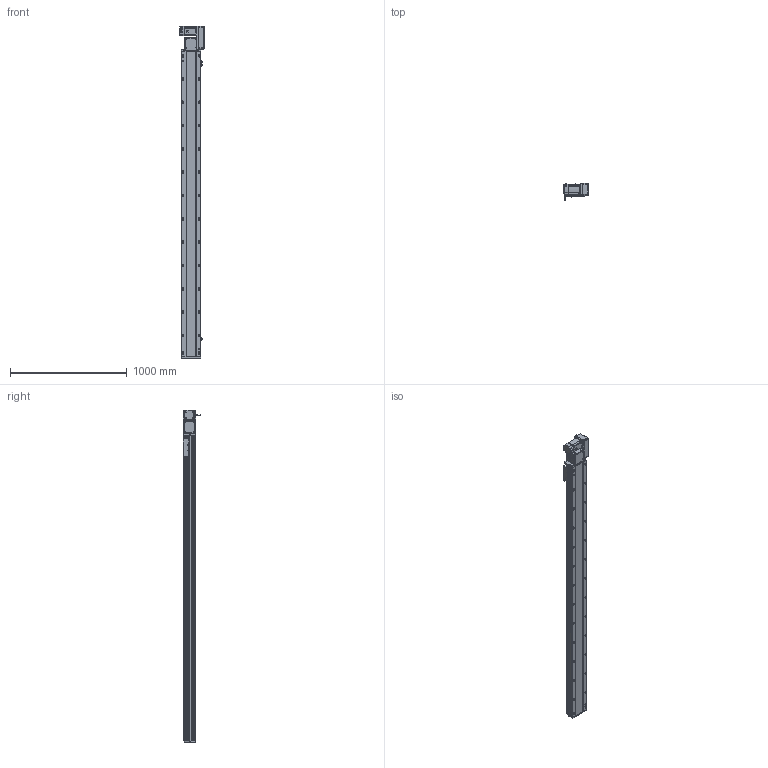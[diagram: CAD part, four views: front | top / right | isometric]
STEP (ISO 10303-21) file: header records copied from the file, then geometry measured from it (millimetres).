
FILE_DESCRIPTION (( 'STEP AP214' ), '1' );
FILE_NAME ('RTB17S-XX-2350-R-M75-C4.STEP', '2025-12-12T01:46:21', ( '' ), ( '' ), 'SwSTEP 2.0', 'SolidWorks 2018', '' );
FILE_SCHEMA (( 'AUTOMOTIVE_DESIGN' ));
Length unit declared in the file: millimetre
Products named in the file (15): RTB22S-GY-018P^RTB17S-R-々湍釱蚾饜-750W_RTB17S-XX-XX-R-M75-C4; RTB17S-L-014-T20-P75--々湍釱^RTB17S-R-々湍釱蚾饜-750W_RTB17S-XX-XX-R-M75-C4; RTB17S-L-007奻裔^RTB17S-XX-XX-R-M75-C4; RTB17S-R-々湍釱蚾饜-750W^RTB17S-XX-XX-R-M75-C4; 750W萇儂^RTB17S-XX-XX-R-M75-C4; RTH13-BL-012覜茼え俋离^RTB17S-賑釱_RTB17S-XX-XX-R-M75-C4; RTB22S-GY-017P^RTB17S-R-々湍釱蚾饜-750W_RTB17S-XX-XX-R-M75-C4; RTB22S-GY-005P^RTB17S-R-々湍釱蚾饜-750W_RTB17S-XX-XX-R-M75-C4; RTB17-R-011菁釱^RTB17S-XX-XX-R-M75-C4; RTB17S-L-004-賑釱^RTB17S-賑釱_RTB17S-XX-XX-R-M75-C4; RTB17S-XX-2350-R-M75-C4; EE672^RTB17S-XX-XX-R-M75-C4; RTB17S-賑釱^RTB17S-XX-XX-R-M75-C4; RTB17S-L-001-耜醱啣^RTB17S-XX-XX-R-M75-C4; RTB22S-GY-008-M75--萇儂啣^RTB17S-R-々湍釱蚾饜-750W_RTB17S-XX-XX-R-M75-C4
Assembly tree (17 placements, depth 3):
  RTB17S-XX-2350-R-M75-C4
    RTB17-R-011菁釱^RTB17S-XX-XX-R-M75-C4
    EE672^RTB17S-XX-XX-R-M75-C4  x3
    RTB17S-L-001-耜醱啣^RTB17S-XX-XX-R-M75-C4
    RTB17S-賑釱^RTB17S-XX-XX-R-M75-C4
      RTB17S-L-004-賑釱^RTB17S-賑釱_RTB17S-XX-XX-R-M75-C4
      RTH13-BL-012覜茼え俋离^RTB17S-賑釱_RTB17S-XX-XX-R-M75-C4
    RTB17S-L-007奻裔^RTB17S-XX-XX-R-M75-C4
    750W萇儂^RTB17S-XX-XX-R-M75-C4
    RTB17S-R-々湍釱蚾饜-750W^RTB17S-XX-XX-R-M75-C4
      RTB17S-L-014-T20-P75--々湍釱^RTB17S-R-々湍釱蚾饜-750W_RTB17S-XX-XX-R-M75-C4
      RTB22S-GY-005P^RTB17S-R-々湍釱蚾饜-750W_RTB17S-XX-XX-R-M75-C4
      RTB22S-GY-017P^RTB17S-R-々湍釱蚾饜-750W_RTB17S-XX-XX-R-M75-C4  x2
      RTB22S-GY-008-M75--萇儂啣^RTB17S-R-々湍釱蚾饜-750W_RTB17S-XX-XX-R-M75-C4
      RTB22S-GY-018P^RTB17S-R-々湍釱蚾饜-750W_RTB17S-XX-XX-R-M75-C4
Bounding box: 207.4 x 152.7 x 2849 mm (x, y, z)
Volume: 20640203.5 mm3; surface area: 3729163.5 mm2
Topology: 17 solids, 17 shells, 2201 faces, 6160 edges, 3986 vertices
Faces by surface type: plane 984, cylinder 801, bspline 294, cone 110, sphere 8, torus 4
Entity records: 63478 total; most frequent: CARTESIAN_POINT 18824, ORIENTED_EDGE 9164, DIRECTION 8492, EDGE_CURVE 4582, AXIS2_PLACEMENT_3D 3006, VERTEX_POINT 2990, VECTOR 2480, LINE 2480
